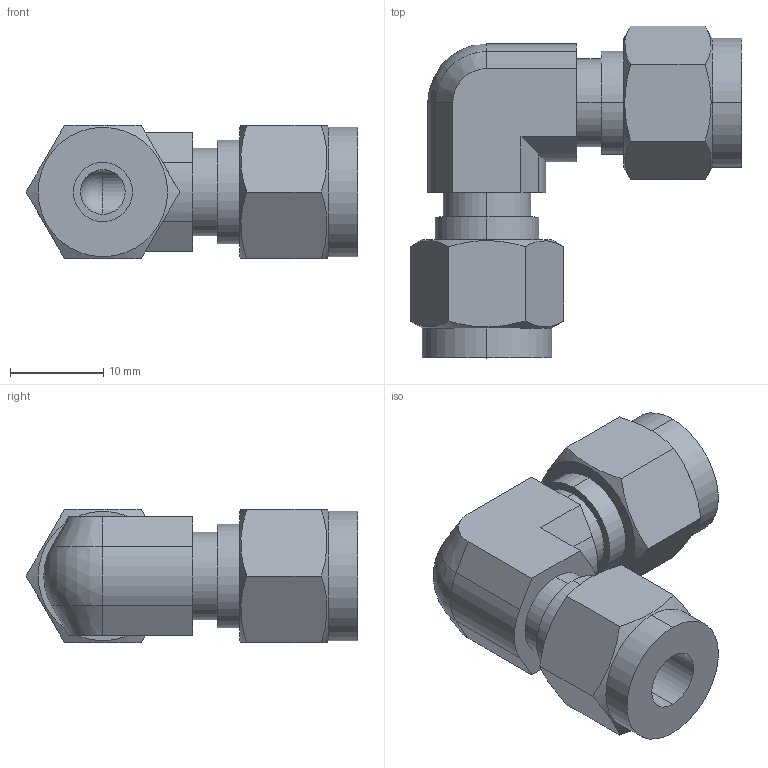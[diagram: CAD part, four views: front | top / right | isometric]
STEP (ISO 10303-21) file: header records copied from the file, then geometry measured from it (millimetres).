
FILE_DESCRIPTION (( 'STEP AP203' ), '1' );
FILE_NAME ('DLA04 SS.STEP', '2009-10-26T06:02:23', ( ' ' ), ( '' ), 'SwSTEP 2.0', 'SolidWorks 2008', '' );
FILE_SCHEMA (( 'CONFIG_CONTROL_DESIGN' ));
Length unit declared in the file: millimetre
Products named in the file (1): DLA04 SS
Bounding box: 35.65 x 35.65 x 14.29 mm (x, y, z)
Volume: 6277.7 mm3; surface area: 3914 mm2
Topology: 1 solids, 1 shells, 68 faces, 164 edges, 104 vertices
Faces by surface type: plane 32, cylinder 24, cone 10, sphere 2
Entity records: 2217 total; most frequent: CARTESIAN_POINT 593, ORIENTED_EDGE 320, DIRECTION 316, EDGE_CURVE 160, AXIS2_PLACEMENT_3D 121, VERTEX_POINT 102, EDGE_LOOP 78, VECTOR 74
